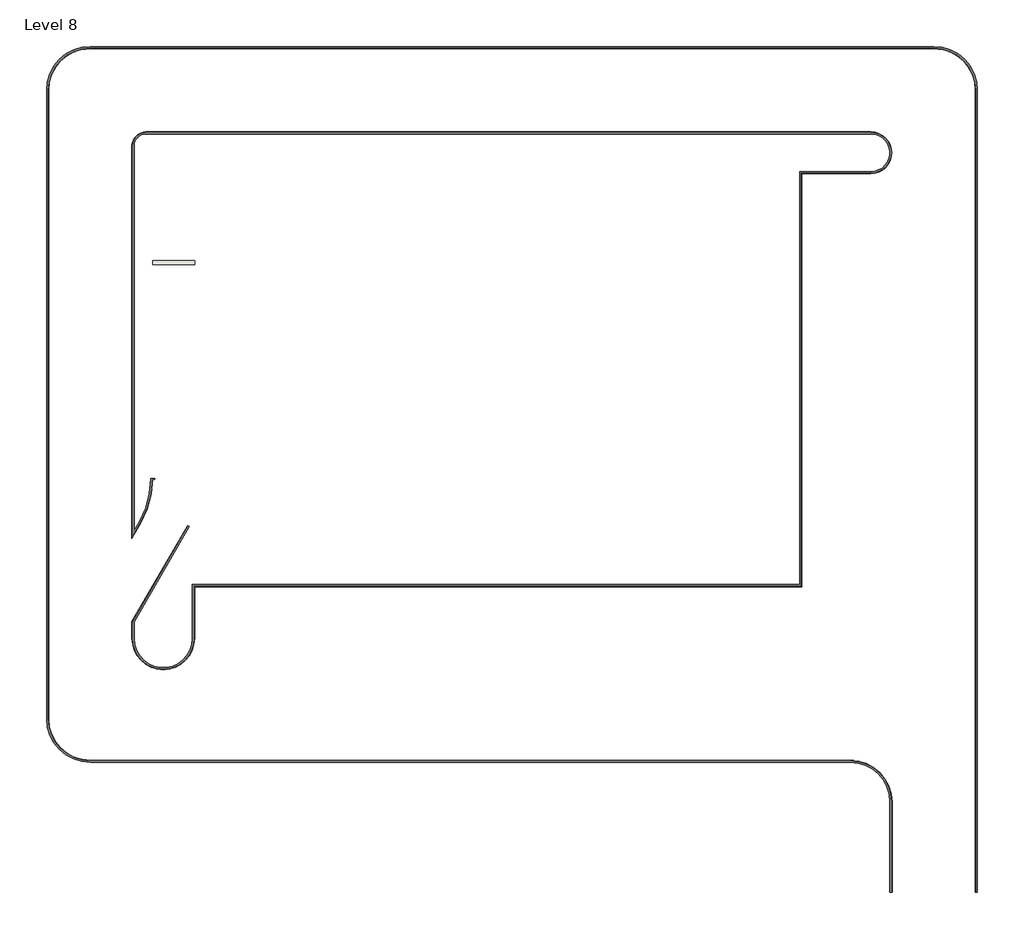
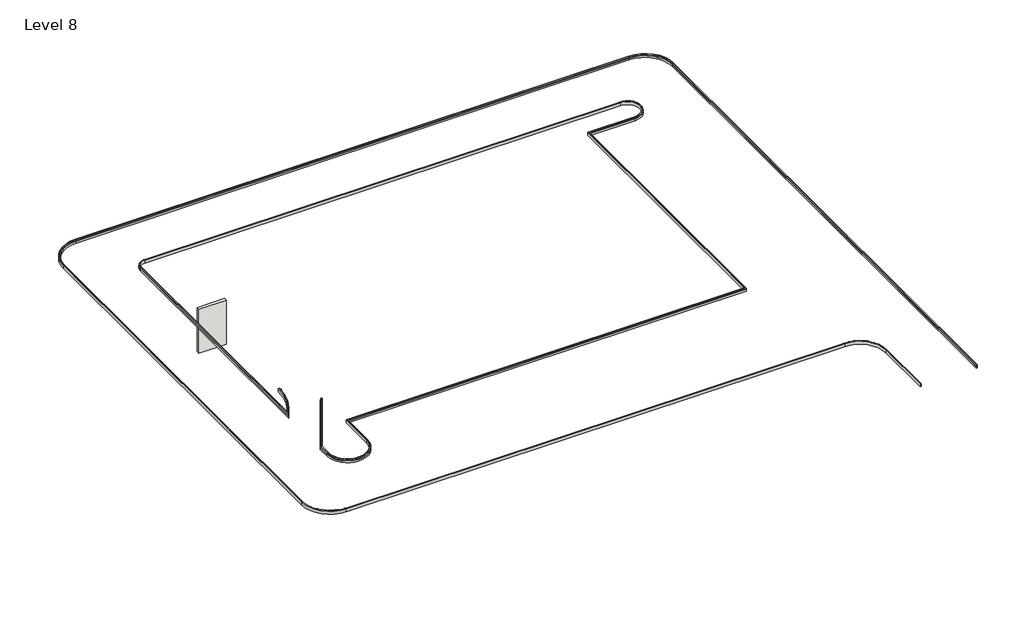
# One storey, incomplete: 1 proxy, 1 wall.
"""IFC4 building model written with IfcOpenShell, lengths in millimetres."""

from ifc_helpers import new_model, si_unit, point, frame, origin, place, context, project, spatial, polyline, circle_curve, ellipse_curve, trimmed, outline, extrude, element, save
from ifc_brep_helpers import plane_surface, cylinder_surface, revolved_surface, advanced_brep

model = new_model("IFC4")

# Units and contexts
model_context = context("Model", 3, world=origin())
ifc_project = project(units=[si_unit("LENGTHUNIT", "METRE", prefix="MILLI")], contexts=[model_context])

# Site, building, storey
site = spatial("IfcSite", under=ifc_project)
building = spatial("IfcBuilding", under=site)
storey = spatial("IfcBuildingStorey", under=building, Name="Level 8", Elevation=-1250.0)

# Proxy
placement = place(None, origin())
element("IfcBuildingElementProxy", 1, Name="Curb", ObjectType="Curb", at=placement, inside=storey, context=model_context, shape_type="AdvancedBrep", body=[
    advanced_brep(
    [(33302.6061884, -38406.9313057, -36.4135952), (33280.5272279, -38406.9313057, -150.0), (33280.5272279, -38406.9313057, -350.0), (33430.5272279, -38406.9313057, -350.0), (33430.5272279, -38406.9313057, 0.0), (33346.7794117, -38406.9313057, 0.0), (33302.6061884, 19343.0686943, -36.4135952), (33280.5272279, 19343.0686943, -150.0), (33430.5272279, 19343.0686943, -350.0), (33280.5272279, 19343.0686943, -350.0), (33430.5272279, 19343.0686943, 0.0), (33346.7794117, 19343.0686943, 0.0), (30280.5272279, 22343.0686943, -150.0), (30280.5272279, 22343.0686943, -350.0), (27280.5272279, -38406.9313057, -150.0), (27258.4482674, -38406.9313057, -36.4135952), (27214.2750442, -38406.9313057, 0.0), (27130.5272279, -38406.9313057, 0.0), (27130.5272279, -38406.9313057, -350.0), (27280.5272279, -38406.9313057, -350.0), (27280.5272279, -31906.9313057, -150.0), (27258.4482674, -31906.9313057, -36.4135952), (27130.5272279, -31906.9313057, -350.0), (27280.5272279, -31906.9313057, -350.0), (27130.5272279, -31906.9313057, 0.0), (27214.2750442, -31906.9313057, 0.0), (24280.5272279, -28906.9313057, -350.0), (24280.5272279, -28906.9313057, -150.0), (24280.5272279, -28929.0102661, -36.4135952), (24280.5272279, -29056.9313057, -350.0), (24280.5272279, -29056.9313057, 0.0), (24280.5272279, -28973.1834894, 0.0), (-30419.4727721, -28906.9313057, -350.0), (-30419.4727721, -28906.9313057, -150.0), (-30419.4727721, -28929.0102661, -36.4135952), (-30419.4727721, -29056.9313057, -350.0), (-30419.4727721, -29056.9313057, 0.0), (-30419.4727721, -28973.1834894, 0.0), (-33419.4727721, -25906.9313057, -350.0), (-33419.4727721, -25906.9313057, -150.0), (-33419.4727721, 19343.0686943, -150.0), (-33419.4727721, 19343.0686943, -350.0), (-30419.4727721, 22343.0686943, -350.0), (-30419.4727721, 22343.0686943, -150.0), (-33441.5517326, -25906.9313057, -36.4135952), (-33569.4727721, -25906.9313057, -350.0), (-33569.4727721, -25906.9313057, 0.0), (-33485.7249558, -25906.9313057, 0.0), (-33441.5517326, 19343.0686943, -36.4135952), (-33569.4727721, 19343.0686943, -350.0), (-33569.4727721, 19343.0686943, 0.0), (-33485.7249558, 19343.0686943, 0.0), (-30419.4727721, 22365.1476548, -36.4135952), (-30419.4727721, 22493.0686943, -350.0), (-30419.4727721, 22493.0686943, 0.0), (-30419.4727721, 22409.3208781, 0.0), (30280.5272279, 22365.1476548, -36.4135952), (30280.5272279, 22493.0686943, -350.0), (30280.5272279, 22493.0686943, 0.0), (30280.5272279, 22409.3208781, 0.0)],
    [
        (0, 1),
        (1, 2),
        (2, 3),
        (3, 4),
        (4, 5),
        (5, 0, circle_curve(frame((33346.7794117, -38406.9313057, -45.0), z_axis=(0.0, -1.0, 0.0), x_axis=(1.0, 0.0, 0.0)), 45.0)),
        (0, 6),
        (6, 7),
        (7, 1),
        (8, 3),
        (2, 9),
        (9, 8),
        (8, 10),
        (10, 4),
        (10, 11),
        (11, 5),
        (11, 6, circle_curve(frame((33346.7794117, 19343.0686943, -45.0), z_axis=(0.0, -1.0, 0.0), x_axis=(1.0, 0.0, 0.0)), 45.0)),
        (9, 7),
        (7, 12, circle_curve(frame((30280.5272279, 19343.0686943, -150.0), z_axis=(0.0, 0.0, 1.0), x_axis=(1.0, 0.0, 0.0)), 3000.0)),
        (12, 13),
        (13, 9, circle_curve(frame((30280.5272279, 19343.0686943, -350.0), z_axis=(0.0, 0.0, -1.0), x_axis=(1.0, 0.0, 0.0)), 3000.0)),
        (14, 15),
        (15, 16, circle_curve(frame((27214.2750442, -38406.9313057, -45.0), z_axis=(0.0, -1.0, 0.0), x_axis=(-1.0, 0.0, 0.0)), 45.0)),
        (16, 17),
        (17, 18),
        (18, 19),
        (19, 14),
        (20, 21),
        (21, 15),
        (14, 20),
        (18, 22),
        (22, 23),
        (23, 19),
        (24, 22),
        (17, 24),
        (25, 24),
        (16, 25),
        (21, 25, circle_curve(frame((27214.2750442, -31906.9313057, -45.0), z_axis=(0.0, -1.0, 0.0), x_axis=(-1.0, 0.0, 0.0)), 45.0)),
        (23, 20),
        (23, 26, circle_curve(frame((24280.5272279, -31906.9313057, -350.0), z_axis=(0.0, 0.0, 1.0), x_axis=(1.0, 0.0, 0.0)), 3000.0)),
        (26, 27),
        (27, 20, circle_curve(frame((24280.5272279, -31906.9313057, -150.0), z_axis=(0.0, 0.0, -1.0), x_axis=(1.0, 0.0, 0.0)), 3000.0)),
        (27, 28),
        (28, 21, circle_curve(frame((24280.5272279, -31906.9313057, -36.4135952), z_axis=(0.0, 0.0, -1.0), x_axis=(0.0, 1.0, 0.0)), 2977.9210395)),
        (22, 29, circle_curve(frame((24280.5272279, -31906.9313057, -350.0), z_axis=(0.0, 0.0, 1.0), x_axis=(0.0, 1.0, 0.0)), 2850.0)),
        (29, 26),
        (24, 30, circle_curve(frame((24280.5272279, -31906.9313057, 0.0), z_axis=(0.0, 0.0, 1.0), x_axis=(0.0, 1.0, 0.0)), 2850.0)),
        (30, 29),
        (25, 31, circle_curve(frame((24280.5272279, -31906.9313057, 0.0), z_axis=(0.0, 0.0, 1.0), x_axis=(0.0, 1.0, 0.0)), 2933.7478163)),
        (31, 30),
        (28, 31, circle_curve(frame((24280.5272279, -28973.1834894, -45.0), z_axis=(1.0, 0.0, 0.0), x_axis=(0.0, -1.0, 0.0)), 45.0)),
        (26, 32),
        (32, 33),
        (33, 27),
        (33, 34),
        (34, 28),
        (29, 35),
        (35, 32),
        (30, 36),
        (36, 35),
        (31, 37),
        (37, 36),
        (34, 37, circle_curve(frame((-30419.4727721, -28973.1834894, -45.0), z_axis=(1.0, 0.0, 0.0), x_axis=(0.0, -1.0, 0.0)), 45.0)),
        (32, 38, circle_curve(frame((-30419.4727721, -25906.9313057, -350.0), z_axis=(0.0, 0.0, -1.0), x_axis=(1.0, 0.0, 0.0)), 3000.0)),
        (38, 39),
        (39, 33, circle_curve(frame((-30419.4727721, -25906.9313057, -150.0), z_axis=(0.0, 0.0, 1.0), x_axis=(1.0, 0.0, 0.0)), 3000.0)),
        (40, 41),
        (41, 42, circle_curve(frame((-30419.4727721, 19343.0686943, -350.0), z_axis=(0.0, 0.0, -1.0), x_axis=(1.0, 0.0, 0.0)), 3000.0)),
        (42, 43),
        (43, 40, circle_curve(frame((-30419.4727721, 19343.0686943, -150.0), z_axis=(0.0, 0.0, 1.0), x_axis=(1.0, 0.0, 0.0)), 3000.0)),
        (39, 44),
        (44, 34, circle_curve(frame((-30419.4727721, -25906.9313057, -36.4135952), z_axis=(0.0, 0.0, 1.0), x_axis=(-1.0, 0.0, 0.0)), 3022.0789605)),
        (35, 45, circle_curve(frame((-30419.4727721, -25906.9313057, -350.0), z_axis=(0.0, 0.0, -1.0), x_axis=(-1.0, 0.0, 0.0)), 3150.0)),
        (45, 38),
        (36, 46, circle_curve(frame((-30419.4727721, -25906.9313057, 0.0), z_axis=(0.0, 0.0, -1.0), x_axis=(-1.0, 0.0, 0.0)), 3150.0)),
        (46, 45),
        (37, 47, circle_curve(frame((-30419.4727721, -25906.9313057, 0.0), z_axis=(0.0, 0.0, -1.0), x_axis=(-1.0, 0.0, 0.0)), 3066.2521837)),
        (47, 46),
        (44, 47, circle_curve(frame((-33485.7249558, -25906.9313057, -45.0), z_axis=(0.0, -1.0, 0.0), x_axis=(-1.0, 0.0, 0.0)), 45.0)),
        (38, 41),
        (40, 39),
        (40, 48),
        (48, 44),
        (45, 49),
        (49, 41),
        (46, 50),
        (50, 49),
        (47, 51),
        (51, 50),
        (48, 51, circle_curve(frame((-33485.7249558, 19343.0686943, -45.0), z_axis=(0.0, -1.0, 0.0), x_axis=(-1.0, 0.0, 0.0)), 45.0)),
        (43, 52),
        (52, 48, circle_curve(frame((-30419.4727721, 19343.0686943, -36.4135952), z_axis=(0.0, 0.0, 1.0), x_axis=(0.0, 1.0, 0.0)), 3022.0789605)),
        (49, 53, circle_curve(frame((-30419.4727721, 19343.0686943, -350.0), z_axis=(0.0, 0.0, -1.0), x_axis=(0.0, 1.0, 0.0)), 3150.0)),
        (53, 42),
        (50, 54, circle_curve(frame((-30419.4727721, 19343.0686943, 0.0), z_axis=(0.0, 0.0, -1.0), x_axis=(0.0, 1.0, 0.0)), 3150.0)),
        (54, 53),
        (51, 55, circle_curve(frame((-30419.4727721, 19343.0686943, 0.0), z_axis=(0.0, 0.0, -1.0), x_axis=(0.0, 1.0, 0.0)), 3066.2521837)),
        (55, 54),
        (52, 55, circle_curve(frame((-30419.4727721, 22409.3208781, -45.0), z_axis=(-1.0, 0.0, 0.0), x_axis=(0.0, 1.0, 0.0)), 45.0)),
        (42, 13),
        (12, 43),
        (12, 56),
        (56, 52),
        (53, 57),
        (57, 13),
        (54, 58),
        (58, 57),
        (55, 59),
        (59, 58),
        (56, 59, circle_curve(frame((30280.5272279, 22409.3208781, -45.0), z_axis=(-1.0, 0.0, 0.0), x_axis=(0.0, 1.0, 0.0)), 45.0)),
        (6, 56, circle_curve(frame((30280.5272279, 19343.0686943, -36.4135952), z_axis=(0.0, 0.0, 1.0), x_axis=(1.0, 0.0, 0.0)), 3022.0789605)),
        (57, 8, circle_curve(frame((30280.5272279, 19343.0686943, -350.0), z_axis=(0.0, 0.0, -1.0), x_axis=(1.0, 0.0, 0.0)), 3150.0)),
        (58, 10, circle_curve(frame((30280.5272279, 19343.0686943, 0.0), z_axis=(0.0, 0.0, -1.0), x_axis=(1.0, 0.0, 0.0)), 3150.0)),
        (59, 11, circle_curve(frame((30280.5272279, 19343.0686943, 0.0), z_axis=(0.0, 0.0, -1.0), x_axis=(1.0, 0.0, 0.0)), 3066.2521837)),
    ],
    [
        plane_surface(frame((33030.5272279, -38406.9313057, -150.0), z_axis=(0.0, -1.0, 0.0), x_axis=(0.0, 0.0, 1.0))),
        plane_surface(frame((33302.6061884, -38406.9313057, -36.4135952), z_axis=(-0.9816271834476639, 0.0, 0.1908089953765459), x_axis=(0.0, 1.0, 0.0))),
        plane_surface(frame((33130.5272279, -38406.9313057, -350.0), z_axis=(0.0, 0.0, -1.0), x_axis=(0.0, 1.0, 0.0))),
        plane_surface(frame((33430.5272279, -38406.9313057, -350.0), z_axis=(1.0, 0.0, 0.0), x_axis=(0.0, 1.0, 0.0))),
        plane_surface(frame((33430.5272279, -38406.9313057, 0.0), z_axis=(0.0, 0.0, 1.0), x_axis=(0.0, 1.0, 0.0))),
        cylinder_surface(frame((33346.7794117, -38406.9313057, -45.0), z_axis=(0.0, -1.0, 0.0), x_axis=(1.0, 0.0, 0.0)), 45.0),
        revolved_surface(polyline([(33280.5272279, 19343.0686943, -350.0), (33280.5272279, 19343.0686943, -150.0)]), (30280.5272279, 19343.0686943, -150.0), (0.0, 0.0, -1.0)),
        plane_surface(frame((33280.5272279, 19343.0686943, -2350.0), z_axis=(-1.0, 0.0, 0.0), x_axis=(0.0, 0.0, 1.0))),
        plane_surface(frame((27030.5272279, -38406.9313057, -150.0), z_axis=(0.0, -1.0, 0.0), x_axis=(0.0, 0.0, -1.0))),
        plane_surface(frame((27258.4482674, -31906.9313057, -36.4135952), z_axis=(0.9816271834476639, 0.0, 0.1908089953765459), x_axis=(0.0, -1.0, 0.0))),
        plane_surface(frame((27430.5272279, -31906.9313057, -350.0), z_axis=(0.0, 0.0, -1.0), x_axis=(0.0, -1.0, 0.0))),
        plane_surface(frame((27130.5272279, -31906.9313057, -350.0), z_axis=(-1.0, 0.0, 0.0), x_axis=(0.0, -1.0, 0.0))),
        plane_surface(frame((27130.5272279, -31906.9313057, 0.0), z_axis=(0.0, 0.0, 1.0), x_axis=(0.0, -1.0, 0.0))),
        cylinder_surface(frame((27214.2750442, -31906.9313057, -45.0), z_axis=(0.0, 1.0, 0.0), x_axis=(-1.0, 0.0, 0.0)), 45.0),
        plane_surface(frame((27280.5272279, -38406.9313057, -2350.0), z_axis=(1.0, 0.0, 0.0), x_axis=(0.0, 0.0, 1.0))),
        cylinder_surface(frame((24280.5272279, -31906.9313057, -150.0), z_axis=(0.0, 0.0, 1.0), x_axis=(1.0, 0.0, 0.0)), 3000.0),
        revolved_surface(polyline([(24280.5272279, -28929.0102661, -36.4135952), (24280.5272279, -28906.9313057, -150.0)]), (24280.5272279, -31906.9313057, -150.0), (0.0, 0.0, -1.0)),
        plane_surface(frame((24280.5272279, -31906.9313057, -350.0), z_axis=(0.0, 0.0, -1.0), x_axis=(0.0, 1.0, 0.0))),
        revolved_surface(polyline([(24280.5272279, -29056.9313057, -350.0), (24280.5272279, -29056.9313057, 0.0)]), (24280.5272279, -31906.9313057, -150.0), (0.0, 0.0, -1.0)),
        plane_surface(frame((24280.5272279, -31906.9313057, 0.0), z_axis=(0.0, 0.0, 1.0), x_axis=(0.0, 1.0, 0.0))),
        revolved_surface(trimmed(ellipse_curve(frame((24280.5272279, -28973.1834894, -45.0), z_axis=(-1.0, 0.0, 0.0), x_axis=(0.0, -1.0, 0.0)), 45.0, 45.0), [point((24280.5272279, -28973.1834894, 0.0))], [point((24280.5272279, -28929.0102661, -36.4135952))], True, "CARTESIAN"), (24280.5272279, -31906.9313057, -150.0), (0.0, 0.0, -1.0)),
        plane_surface(frame((24280.5272279, -28906.9313057, -2350.0), z_axis=(0.0, 1.0, 0.0), x_axis=(0.0, 0.0, 1.0))),
        plane_surface(frame((-30419.4727721, -28929.0102661, -36.4135952), z_axis=(0.0, 0.9816271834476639, 0.1908089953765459), x_axis=(1.0, 0.0, 0.0))),
        plane_surface(frame((-30419.4727721, -28756.9313057, -350.0), z_axis=(0.0, 0.0, -1.0), x_axis=(1.0, 0.0, 0.0))),
        plane_surface(frame((-30419.4727721, -29056.9313057, -350.0), z_axis=(0.0, -1.0, 0.0), x_axis=(1.0, 0.0, 0.0))),
        plane_surface(frame((-30419.4727721, -29056.9313057, 0.0), z_axis=(0.0, 0.0, 1.0), x_axis=(1.0, 0.0, 0.0))),
        cylinder_surface(frame((-30419.4727721, -28973.1834894, -45.0), z_axis=(-1.0, 0.0, 0.0), x_axis=(0.0, -1.0, 0.0)), 45.0),
        revolved_surface(polyline([(-27419.4727721, -25906.9313057, -350.0), (-27419.4727721, -25906.9313057, -150.0)]), (-30419.4727721, -25906.9313057, -150.0), (0.0, 0.0, -1.0)),
        revolved_surface(polyline([(-27419.4727721, 19343.0686943, -350.0), (-27419.4727721, 19343.0686943, -150.0)]), (-30419.4727721, 19343.0686943, -150.0), (0.0, 0.0, -1.0)),
        revolved_surface(polyline([(-33441.5517326, -25906.9313057, -36.4135952), (-33419.4727721, -25906.9313057, -150.0)]), (-30419.4727721, -25906.9313057, -150.0), (0.0, 0.0, 1.0)),
        plane_surface(frame((-30419.4727721, -25906.9313057, -350.0), z_axis=(0.0, 0.0, -1.0), x_axis=(-1.0, 0.0, 0.0))),
        cylinder_surface(frame((-30419.4727721, -25906.9313057, -150.0), z_axis=(0.0, 0.0, 1.0), x_axis=(-1.0, 0.0, 0.0)), 3150.0),
        plane_surface(frame((-30419.4727721, -25906.9313057, 0.0), z_axis=(0.0, 0.0, 1.0), x_axis=(-1.0, 0.0, 0.0))),
        revolved_surface(trimmed(ellipse_curve(frame((-33485.7249558, -25906.9313057, -45.0), z_axis=(0.0, 1.0, 0.0), x_axis=(-1.0, 0.0, 0.0)), 45.0, 45.0), [point((-33485.7249558, -25906.9313057, 0.0))], [point((-33441.5517326, -25906.9313057, -36.4135952))], True, "CARTESIAN"), (-30419.4727721, -25906.9313057, -150.0), (0.0, 0.0, 1.0)),
        plane_surface(frame((-33419.4727721, -25906.9313057, -2350.0), z_axis=(1.0, 0.0, 0.0), x_axis=(0.0, 0.0, 1.0))),
        plane_surface(frame((-33441.5517326, 19343.0686943, -36.4135952), z_axis=(0.9816271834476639, 0.0, 0.1908089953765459), x_axis=(0.0, -1.0, 0.0))),
        plane_surface(frame((-33269.4727721, 19343.0686943, -350.0), z_axis=(0.0, 0.0, -1.0), x_axis=(0.0, -1.0, 0.0))),
        plane_surface(frame((-33569.4727721, 19343.0686943, -350.0), z_axis=(-1.0, 0.0, 0.0), x_axis=(0.0, -1.0, 0.0))),
        plane_surface(frame((-33569.4727721, 19343.0686943, 0.0), z_axis=(0.0, 0.0, 1.0), x_axis=(0.0, -1.0, 0.0))),
        cylinder_surface(frame((-33485.7249558, 19343.0686943, -45.0), z_axis=(0.0, 1.0, 0.0), x_axis=(-1.0, 0.0, 0.0)), 45.0),
        revolved_surface(polyline([(-30419.4727721, 22365.1476548, -36.4135952), (-30419.4727721, 22343.0686943, -150.0)]), (-30419.4727721, 19343.0686943, -150.0), (0.0, 0.0, 1.0)),
        plane_surface(frame((-30419.4727721, 19343.0686943, -350.0), z_axis=(0.0, 0.0, -1.0), x_axis=(0.0, 1.0, 0.0))),
        cylinder_surface(frame((-30419.4727721, 19343.0686943, -150.0), z_axis=(0.0, 0.0, 1.0), x_axis=(0.0, 1.0, 0.0)), 3150.0),
        plane_surface(frame((-30419.4727721, 19343.0686943, 0.0), z_axis=(0.0, 0.0, 1.0), x_axis=(0.0, 1.0, 0.0))),
        revolved_surface(trimmed(ellipse_curve(frame((-30419.4727721, 22409.3208781, -45.0), z_axis=(1.0, 0.0, 0.0), x_axis=(0.0, 1.0, 0.0)), 45.0, 45.0), [point((-30419.4727721, 22409.3208781, 0.0))], [point((-30419.4727721, 22365.1476548, -36.4135952))], True, "CARTESIAN"), (-30419.4727721, 19343.0686943, -150.0), (0.0, 0.0, 1.0)),
        plane_surface(frame((-30419.4727721, 22343.0686943, -2350.0), z_axis=(0.0, -1.0, 0.0), x_axis=(0.0, 0.0, 1.0))),
        plane_surface(frame((30280.5272279, 22365.1476548, -36.4135952), z_axis=(0.0, -0.9816271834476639, 0.1908089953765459), x_axis=(-1.0, 0.0, 0.0))),
        plane_surface(frame((30280.5272279, 22193.0686943, -350.0), z_axis=(0.0, 0.0, -1.0), x_axis=(-1.0, 0.0, 0.0))),
        plane_surface(frame((30280.5272279, 22493.0686943, -350.0), z_axis=(0.0, 1.0, 0.0), x_axis=(-1.0, 0.0, 0.0))),
        plane_surface(frame((30280.5272279, 22493.0686943, 0.0), z_axis=(0.0, 0.0, 1.0), x_axis=(-1.0, 0.0, 0.0))),
        cylinder_surface(frame((30280.5272279, 22409.3208781, -45.0), z_axis=(1.0, 0.0, 0.0), x_axis=(0.0, 1.0, 0.0)), 45.0),
        revolved_surface(polyline([(33302.6061884, 19343.0686943, -36.4135952), (33280.5272279, 19343.0686943, -150.0)]), (30280.5272279, 19343.0686943, -150.0), (0.0, 0.0, 1.0)),
        plane_surface(frame((30280.5272279, 19343.0686943, -350.0), z_axis=(0.0, 0.0, -1.0), x_axis=(1.0, 0.0, 0.0))),
        cylinder_surface(frame((30280.5272279, 19343.0686943, -150.0), z_axis=(0.0, 0.0, 1.0), x_axis=(1.0, 0.0, 0.0)), 3150.0),
        plane_surface(frame((30280.5272279, 19343.0686943, 0.0), z_axis=(0.0, 0.0, 1.0), x_axis=(1.0, 0.0, 0.0))),
        revolved_surface(trimmed(ellipse_curve(frame((33346.7794117, 19343.0686943, -45.0), z_axis=(0.0, -1.0, 0.0), x_axis=(1.0, 0.0, 0.0)), 45.0, 45.0), [point((33346.7794117, 19343.0686943, 0.0))], [point((33302.6061884, 19343.0686943, -36.4135952))], True, "CARTESIAN"), (30280.5272279, 19343.0686943, -150.0), (0.0, 0.0, 1.0)),
    ],
    [
        (0, [[1, 2, 3, 4, 5, 6]]),
        (1, [[-1, 7, 8, 9]]),
        (2, [[10, -3, 11, 12]]),
        (3, [[-4, -10, 13, 14]]),
        (4, [[-5, -14, 15, 16]]),
        (5, [[-6, -16, 17, -7]]),
        (6, [[18, 19, 20, 21]]),
        (7, [[-18, -11, -2, -9]]),
        (8, [[22, 23, 24, 25, 26, 27]]),
        (9, [[28, 29, -22, 30]]),
        (10, [[31, 32, 33, -26]]),
        (11, [[34, -31, -25, 35]]),
        (12, [[36, -35, -24, 37]]),
        (13, [[38, -37, -23, -29]]),
        (14, [[39, -30, -27, -33]]),
        (15, [[-39, 40, 41, 42]]),
        (16, [[-28, -42, 43, 44]]),
        (17, [[45, 46, -40, -32]]),
        (18, [[-34, 47, 48, -45]]),
        (19, [[-36, 49, 50, -47]]),
        (20, [[-38, -44, 51, -49]]),
        (21, [[-41, 52, 53, 54]]),
        (22, [[-43, -54, 55, 56]]),
        (23, [[57, 58, -52, -46]]),
        (24, [[-48, 59, 60, -57]]),
        (25, [[-50, 61, 62, -59]]),
        (26, [[-51, -56, 63, -61]]),
        (27, [[-53, 64, 65, 66]]),
        (28, [[67, 68, 69, 70]]),
        (29, [[-55, -66, 71, 72]]),
        (30, [[73, 74, -64, -58]]),
        (31, [[-60, 75, 76, -73]]),
        (32, [[-62, 77, 78, -75]]),
        (33, [[-63, -72, 79, -77]]),
        (34, [[-65, 80, -67, 81]]),
        (35, [[-71, -81, 82, 83]]),
        (36, [[84, 85, -80, -74]]),
        (37, [[-76, 86, 87, -84]]),
        (38, [[-78, 88, 89, -86]]),
        (39, [[-79, -83, 90, -88]]),
        (40, [[-82, -70, 91, 92]]),
        (41, [[93, 94, -68, -85]]),
        (42, [[-87, 95, 96, -93]]),
        (43, [[-89, 97, 98, -95]]),
        (44, [[-90, -92, 99, -97]]),
        (45, [[-69, 100, -20, 101]]),
        (46, [[-91, -101, 102, 103]]),
        (47, [[104, 105, -100, -94]]),
        (48, [[-96, 106, 107, -104]]),
        (49, [[-98, 108, 109, -106]]),
        (50, [[-99, -103, 110, -108]]),
        (51, [[-102, -19, -8, 111]]),
        (52, [[112, -12, -21, -105]]),
        (53, [[-107, 113, -13, -112]]),
        (54, [[-109, 114, -15, -113]]),
        (55, [[-110, -111, -17, -114]]),
    ],
),
    advanced_brep(
    [(25767.0057917, 16343.0686943, -350.0), (25767.0057917, 16343.0686943, -150.0), (25767.0057917, 13343.0686943, -150.0), (25767.0057917, 13343.0686943, -350.0), (-26419.4727721, 16343.0686943, -350.0), (-26419.4727721, 16343.0686943, -150.0), (20780.5272279, 13343.0686943, -150.0), (20780.5272279, 13343.0686943, -350.0), (-27419.4727721, 15343.0686943, -350.0), (-27419.4727721, 15343.0686943, -150.0), (-27419.4727721, -20131.4306768, -350.0), (-27419.4727721, -20131.4306768, -150.0), (-27419.4727721, -18919.4602417, -150.0), (-27419.4727721, -18919.4602417, -350.0), (-22919.4727721, -20131.4306768, -350.0), (-22919.4727721, -20131.4306768, -150.0), (-22919.4727721, -16406.9313057, -350.0), (-22919.4727721, -16406.9313057, -150.0), (20780.5272279, -16406.9313057, -350.0), (20780.5272279, -16406.9313057, -150.0), (-27419.4727721, -12919.4602417, -350.0), (-27419.4727721, -12919.4602417, -150.0), (-26776.9101879, -11806.5091988, -350.0), (-26776.9101879, -11806.5091988, -150.0), (-25919.4727721, -8606.5091988, -350.0), (-25919.4727721, -8606.5091988, -150.0), (-23415.1787781, -11983.8195957, -150.0), (-23415.1787781, -11983.8195957, -350.0), (-26419.4727721, 16320.9897339, -36.4135952), (25767.0057917, 16320.9897339, -36.4135952), (25767.0057917, 16193.0686943, -350.0), (-26419.4727721, 16193.0686943, -350.0), (-26419.4727721, 16193.0686943, 0.0), (25767.0057917, 16193.0686943, 0.0), (-26419.4727721, 16276.8165106, 0.0), (25767.0057917, 16276.8165106, 0.0), (25767.0057917, 13365.1476548, -36.4135952), (25767.0057917, 13493.0686943, -350.0), (25767.0057917, 13493.0686943, 0.0), (25767.0057917, 13409.3208781, 0.0), (20758.4482674, 13365.1476548, -36.4135952), (20630.5272279, 13493.0686943, -350.0), (20630.5272279, 13493.0686943, 0.0), (20714.2750442, 13409.3208781, 0.0), (20758.4482674, -16384.8523452, -36.4135952), (20630.5272279, -16256.9313057, -350.0), (20630.5272279, -16256.9313057, 0.0), (20714.2750442, -16340.6791219, 0.0), (-22941.5517326, -16384.8523452, -36.4135952), (-23069.4727721, -16256.9313057, -350.0), (-23069.4727721, -16256.9313057, 0.0), (-22985.7249558, -16340.6791219, 0.0), (-22941.5517326, -20131.4306768, -36.4135952), (-23069.4727721, -20131.4306768, -350.0), (-23069.4727721, -20131.4306768, 0.0), (-22985.7249558, -20131.4306768, 0.0), (-27397.3938116, -20131.4306768, -36.4135952), (-27269.4727721, -20131.4306768, -350.0), (-27269.4727721, -20131.4306768, 0.0), (-27353.2205883, -20131.4306768, 0.0), (-27397.3938116, -18925.3762814, -36.4135952), (-27269.4727721, -18959.6526206, -350.0), (-27269.4727721, -18959.6526206, 0.0), (-27353.2205883, -18937.2124609, 0.0), (-23396.0578374, -11994.8590759, -36.4135952), (-23357.8027039, -12016.9456875, 0.0), (-23285.2749675, -12058.8195957, 0.0), (-23285.2749675, -12058.8195957, -350.0), (-26796.0311285, -11795.4697186, -36.4135952), (-27397.3938116, -12837.0604394, -36.4135952), (-27269.4727721, -12359.6526206, -350.0), (-26906.8139984, -11731.5091988, -350.0), (-26906.8139984, -11731.5091988, 0.0), (-27269.4727721, -12359.6526206, 0.0), (-26834.286262, -11773.3831069, 0.0), (-27353.2205883, -12672.2037259, 0.0), (-25941.5517326, -8606.5091988, -36.4135952), (-26069.4727721, -8606.5091988, -350.0), (-26069.4727721, -8606.5091988, 0.0), (-25985.7249558, -8606.5091988, 0.0), (-27397.3938116, 15343.0686943, -36.4135952), (-27269.4727721, 15343.0686943, -350.0), (-27269.4727721, 15343.0686943, 0.0), (-27353.2205883, 15343.0686943, 0.0)],
    [
        (0, 1),
        (1, 2, circle_curve(frame((25767.0057917, 14843.0686943, -150.0), z_axis=(0.0, 0.0, -1.0), x_axis=(1.0, 0.0, 0.0)), 1500.0)),
        (2, 3),
        (3, 0, circle_curve(frame((25767.0057917, 14843.0686943, -350.0), z_axis=(0.0, 0.0, 1.0), x_axis=(1.0, 0.0, 0.0)), 1500.0)),
        (0, 4),
        (4, 5),
        (5, 1),
        (2, 6),
        (6, 7),
        (7, 3),
        (8, 9),
        (9, 5, circle_curve(frame((-26419.4727721, 15343.0686943, -150.0), z_axis=(0.0, 0.0, -1.0), x_axis=(1.0, 0.0, 0.0)), 1000.0)),
        (4, 8, circle_curve(frame((-26419.4727721, 15343.0686943, -350.0), z_axis=(0.0, 0.0, 1.0), x_axis=(1.0, 0.0, 0.0)), 1000.0)),
        (10, 11),
        (11, 12),
        (12, 13),
        (13, 10),
        (14, 15),
        (15, 11, circle_curve(frame((-25169.4727721, -20131.4306768, -150.0), z_axis=(0.0, 0.0, -1.0), x_axis=(1.0, 0.0, 0.0)), 2250.0)),
        (10, 14, circle_curve(frame((-25169.4727721, -20131.4306768, -350.0), z_axis=(0.0, 0.0, 1.0), x_axis=(1.0, 0.0, 0.0)), 2250.0)),
        (16, 17),
        (17, 15),
        (14, 16),
        (18, 19),
        (19, 17),
        (16, 18),
        (6, 19),
        (18, 7),
        (20, 21),
        (21, 9),
        (8, 20),
        (20, 22),
        (22, 23),
        (23, 21),
        (22, 24, circle_curve(frame((-32319.4727721, -8606.5091988, -350.0), z_axis=(0.0, 0.0, 1.0), x_axis=(1.0, 0.0, 0.0)), 6400.0)),
        (24, 25),
        (25, 23, circle_curve(frame((-32319.4727721, -8606.5091988, -150.0), z_axis=(0.0, 0.0, -1.0), x_axis=(1.0, 0.0, 0.0)), 6400.0)),
        (12, 26),
        (26, 27),
        (27, 13),
        (5, 28),
        (28, 29),
        (29, 1),
        (30, 31),
        (31, 4),
        (0, 30),
        (32, 31),
        (30, 33),
        (33, 32),
        (34, 32),
        (33, 35),
        (35, 34),
        (28, 34, circle_curve(frame((-26419.4727721, 16276.8165106, -45.0), z_axis=(1.0, 0.0, 0.0), x_axis=(0.0, -1.0, 0.0)), 45.0)),
        (35, 29, circle_curve(frame((25767.0057917, 16276.8165106, -45.0), z_axis=(-1.0, 0.0, 0.0), x_axis=(0.0, -1.0, 0.0)), 45.0)),
        (29, 36, circle_curve(frame((25767.0057917, 14843.0686943, -36.4135952), z_axis=(0.0, 0.0, -1.0), x_axis=(0.0, 1.0, 0.0)), 1477.9210395)),
        (36, 2),
        (37, 30, circle_curve(frame((25767.0057917, 14843.0686943, -350.0), z_axis=(0.0, 0.0, 1.0), x_axis=(0.0, 1.0, 0.0)), 1350.0)),
        (3, 37),
        (37, 38),
        (38, 33, circle_curve(frame((25767.0057917, 14843.0686943, 0.0), z_axis=(0.0, 0.0, 1.0), x_axis=(0.0, 1.0, 0.0)), 1350.0)),
        (38, 39),
        (39, 35, circle_curve(frame((25767.0057917, 14843.0686943, 0.0), z_axis=(0.0, 0.0, 1.0), x_axis=(0.0, 1.0, 0.0)), 1433.7478163)),
        (39, 36, circle_curve(frame((25767.0057917, 13409.3208781, -45.0), z_axis=(1.0, 0.0, 0.0), x_axis=(0.0, 1.0, 0.0)), 45.0)),
        (36, 40),
        (40, 6),
        (41, 37),
        (7, 41),
        (41, 42),
        (42, 38),
        (42, 43),
        (43, 39),
        (43, 40, ellipse_curve(frame((20714.2750442, 13409.3208781, -45.0), z_axis=(0.7071067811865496, 0.7071067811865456, 0.0), x_axis=(0.7071067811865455, -0.7071067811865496, 0.0)), 63.6396103, 45.0)),
        (40, 44),
        (44, 19),
        (45, 41),
        (18, 45),
        (45, 46),
        (46, 42),
        (46, 47),
        (47, 43),
        (47, 44, ellipse_curve(frame((20714.2750442, -16340.6791219, -45.0), z_axis=(0.7071067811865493, 0.7071067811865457, 0.0), x_axis=(-0.7071067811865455, 0.7071067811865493, 0.0)), 63.6396103, 45.0)),
        (44, 48),
        (48, 17),
        (49, 45),
        (16, 49),
        (49, 50),
        (50, 46),
        (50, 51),
        (51, 47),
        (51, 48, ellipse_curve(frame((-22985.7249558, -16340.6791219, -45.0), z_axis=(0.7071067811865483, 0.7071067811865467, 0.0), x_axis=(0.7071067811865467, -0.7071067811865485, 0.0)), 63.6396103, 45.0)),
        (48, 52),
        (52, 15),
        (53, 49),
        (14, 53),
        (53, 54),
        (54, 50),
        (54, 55),
        (55, 51),
        (55, 52, circle_curve(frame((-22985.7249558, -20131.4306768, -45.0), z_axis=(0.0, 1.0, 0.0), x_axis=(-1.0, 0.0, 0.0)), 45.0)),
        (52, 56, circle_curve(frame((-25169.4727721, -20131.4306768, -36.4135952), z_axis=(0.0, 0.0, -1.0), x_axis=(1.0, 0.0, 0.0)), 2227.9210395)),
        (56, 11),
        (57, 53, circle_curve(frame((-25169.4727721, -20131.4306768, -350.0), z_axis=(0.0, 0.0, 1.0), x_axis=(1.0, 0.0, 0.0)), 2100.0)),
        (10, 57),
        (57, 58),
        (58, 54, circle_curve(frame((-25169.4727721, -20131.4306768, 0.0), z_axis=(0.0, 0.0, 1.0), x_axis=(1.0, 0.0, 0.0)), 2100.0)),
        (58, 59),
        (59, 55, circle_curve(frame((-25169.4727721, -20131.4306768, 0.0), z_axis=(0.0, 0.0, 1.0), x_axis=(1.0, 0.0, 0.0)), 2183.7478163)),
        (59, 56, circle_curve(frame((-27353.2205883, -20131.4306768, -45.0), z_axis=(0.0, -1.0, 0.0), x_axis=(1.0, 0.0, 0.0)), 45.0)),
        (56, 60),
        (60, 12),
        (61, 57),
        (13, 61),
        (61, 62),
        (62, 58),
        (62, 63),
        (63, 59),
        (63, 60, ellipse_curve(frame((-27353.2205883, -18937.2124609, -45.0), z_axis=(-0.2588190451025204, -0.9659258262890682, 0.0), x_axis=(0.9659258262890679, -0.25881904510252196, 0.0)), 46.5874281, 45.0)),
        (26, 64),
        (64, 65, circle_curve(frame((-23357.8027039, -12016.9456875, -45.0), z_axis=(0.5000000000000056, 0.8660254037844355, 0.0), x_axis=(0.8660254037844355, -0.5000000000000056, 0.0)), 45.0)),
        (65, 66),
        (66, 67),
        (67, 27),
        (60, 64),
        (67, 61),
        (66, 62),
        (65, 63),
        (23, 68),
        (68, 69),
        (69, 21),
        (70, 71),
        (71, 22),
        (20, 70),
        (72, 71),
        (70, 73),
        (73, 72),
        (74, 72),
        (73, 75),
        (75, 74),
        (68, 74, circle_curve(frame((-26834.286262, -11773.3831069, -45.0), z_axis=(-0.5000000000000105, -0.8660254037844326, 0.0), x_axis=(-0.8660254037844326, 0.5000000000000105, 0.0)), 45.0)),
        (75, 69, ellipse_curve(frame((-27353.2205883, -12672.2037259, -45.0), z_axis=(0.9659258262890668, -0.2588190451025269, 0.0), x_axis=(0.2588190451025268, 0.9659258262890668, 0.0)), 173.8666487, 45.0)),
        (76, 25),
        (24, 77),
        (77, 78),
        (78, 79),
        (79, 76, circle_curve(frame((-25985.7249558, -8606.5091988, -45.0), z_axis=(0.0, 1.0, 0.0), x_axis=(-1.0, 0.0, 0.0)), 45.0)),
        (76, 68, circle_curve(frame((-32319.4727721, -8606.5091988, -36.4135952), z_axis=(0.0, 0.0, -1.0), x_axis=(1.0, 0.0, 0.0)), 6377.9210395)),
        (71, 77, circle_curve(frame((-32319.4727721, -8606.5091988, -350.0), z_axis=(0.0, 0.0, 1.0), x_axis=(1.0, 0.0, 0.0)), 6250.0)),
        (72, 78, circle_curve(frame((-32319.4727721, -8606.5091988, 0.0), z_axis=(0.0, 0.0, 1.0), x_axis=(1.0, 0.0, 0.0)), 6250.0)),
        (74, 79, circle_curve(frame((-32319.4727721, -8606.5091988, 0.0), z_axis=(0.0, 0.0, 1.0), x_axis=(1.0, 0.0, 0.0)), 6333.7478163)),
        (69, 80),
        (80, 9),
        (81, 70),
        (8, 81),
        (81, 82),
        (82, 73),
        (82, 83),
        (83, 75),
        (83, 80, circle_curve(frame((-27353.2205883, 15343.0686943, -45.0), z_axis=(0.0, -1.0, 0.0), x_axis=(1.0, 0.0, 0.0)), 45.0)),
        (80, 28, circle_curve(frame((-26419.4727721, 15343.0686943, -36.4135952), z_axis=(0.0, 0.0, -1.0), x_axis=(-1.0, 0.0, 0.0)), 977.9210395)),
        (31, 81, circle_curve(frame((-26419.4727721, 15343.0686943, -350.0), z_axis=(0.0, 0.0, 1.0), x_axis=(-1.0, 0.0, 0.0)), 850.0)),
        (32, 82, circle_curve(frame((-26419.4727721, 15343.0686943, 0.0), z_axis=(0.0, 0.0, 1.0), x_axis=(-1.0, 0.0, 0.0)), 850.0)),
        (34, 83, circle_curve(frame((-26419.4727721, 15343.0686943, 0.0), z_axis=(0.0, 0.0, 1.0), x_axis=(-1.0, 0.0, 0.0)), 933.7478163)),
    ],
    [
        cylinder_surface(frame((25767.0057917, 14843.0686943, 0.0), z_axis=(0.0, 0.0, 1.0), x_axis=(1.0, 0.0, 0.0)), 1500.0),
        plane_surface(frame((25767.0057917, 16343.0686943, -2350.0), z_axis=(0.0, 1.0, 0.0), x_axis=(0.0, 0.0, 1.0))),
        plane_surface(frame((20780.5272279, 13343.0686943, -2350.0), z_axis=(0.0, -1.0, 0.0), x_axis=(0.0, 0.0, 1.0))),
        cylinder_surface(frame((-26419.4727721, 15343.0686943, 0.0), z_axis=(0.0, 0.0, 1.0), x_axis=(1.0, 0.0, 0.0)), 1000.0),
        plane_surface(frame((-27419.4727721, -18919.4602417, -2350.0), z_axis=(-1.0, 0.0, 0.0), x_axis=(0.0, 0.0, 1.0))),
        cylinder_surface(frame((-25169.4727721, -20131.4306768, 0.0), z_axis=(0.0, 0.0, 1.0), x_axis=(1.0, 0.0, 0.0)), 2250.0),
        plane_surface(frame((-22919.4727721, -20131.4306768, -2350.0), z_axis=(1.0, 0.0, 0.0), x_axis=(0.0, 0.0, 1.0))),
        plane_surface(frame((-22919.4727721, -16406.9313057, -2350.0), z_axis=(0.0, -1.0, 0.0), x_axis=(0.0, 0.0, 1.0))),
        plane_surface(frame((20780.5272279, -16406.9313057, -2350.0), z_axis=(1.0, 0.0, 0.0), x_axis=(0.0, 0.0, 1.0))),
        plane_surface(frame((-27419.4727721, 15343.0686943, -2350.0), z_axis=(-1.0, 0.0, 0.0), x_axis=(0.0, 0.0, 1.0))),
        plane_surface(frame((-27419.4727721, -12919.4602417, -2350.0), z_axis=(0.8660254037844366, -0.5000000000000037, 0.0), x_axis=(0.0, 0.0, 1.0))),
        cylinder_surface(frame((-32319.4727721, -8606.5091988, 0.0), z_axis=(0.0, 0.0, 1.0), x_axis=(1.0, 0.0, 0.0)), 6400.0),
        plane_surface(frame((-23415.1787781, -11983.8195957, -2350.0), z_axis=(-0.8660254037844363, 0.5000000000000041, 0.0), x_axis=(0.0, 0.0, 1.0))),
        plane_surface(frame((-26419.4727721, 16320.9897339, -36.4135952), z_axis=(0.0, 0.9816271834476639, 0.19080899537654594), x_axis=(1.0, 0.0, 0.0))),
        plane_surface(frame((-26419.4727721, 16493.0686943, -350.0), z_axis=(0.0, 0.0, -1.0), x_axis=(1.0, 0.0, 0.0))),
        plane_surface(frame((-26419.4727721, 16193.0686943, -350.0), z_axis=(0.0, -1.0, 0.0), x_axis=(1.0, 0.0, 0.0))),
        plane_surface(frame((-26419.4727721, 16193.0686943, 0.0), z_axis=(0.0, 0.0, 1.0), x_axis=(1.0, 0.0, 0.0))),
        cylinder_surface(frame((-26419.4727721, 16276.8165106, -45.0), z_axis=(-1.0, 0.0, 0.0), x_axis=(0.0, -1.0, 0.0)), 45.0),
        revolved_surface(polyline([(25767.0057917, 16320.9897339, -36.4135952), (25767.0057917, 16343.0686943, -150.0)]), (25767.0057917, 14843.0686943, -150.0), (0.0, 0.0, -1.0)),
        plane_surface(frame((25767.0057917, 14843.0686943, -350.0), z_axis=(0.0, 0.0, -1.0), x_axis=(0.0, 1.0, 0.0))),
        revolved_surface(polyline([(25767.0057917, 16193.0686943, -350.0), (25767.0057917, 16193.0686943, 0.0)]), (25767.0057917, 14843.0686943, -150.0), (0.0, 0.0, -1.0)),
        plane_surface(frame((25767.0057917, 14843.0686943, 0.0), z_axis=(0.0, 0.0, 1.0), x_axis=(0.0, 1.0, 0.0))),
        revolved_surface(trimmed(ellipse_curve(frame((25767.0057917, 16276.8165106, -45.0), z_axis=(-1.0, 0.0, 0.0), x_axis=(0.0, -1.0, 0.0)), 45.0, 45.0), [point((25767.0057917, 16276.8165106, 0.0))], [point((25767.0057917, 16320.9897339, -36.4135952))], True, "CARTESIAN"), (25767.0057917, 14843.0686943, -150.0), (0.0, 0.0, -1.0)),
        plane_surface(frame((25767.0057917, 13365.1476548, -36.4135952), z_axis=(0.0, -0.9816271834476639, 0.19080899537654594), x_axis=(-1.0, 0.0, 0.0))),
        plane_surface(frame((25767.0057917, 13193.0686943, -350.0), z_axis=(0.0, 0.0, -1.0), x_axis=(-1.0, 0.0, 0.0))),
        plane_surface(frame((25767.0057917, 13493.0686943, -350.0), z_axis=(0.0, 1.0, 0.0), x_axis=(-1.0, 0.0, 0.0))),
        plane_surface(frame((25767.0057917, 13493.0686943, 0.0), z_axis=(0.0, 0.0, 1.0), x_axis=(-1.0, 0.0, 0.0))),
        cylinder_surface(frame((25767.0057917, 13409.3208781, -45.0), z_axis=(1.0, 0.0, 0.0), x_axis=(0.0, 1.0, 0.0)), 45.0),
        plane_surface(frame((20758.4482674, 13365.1476548, -36.4135952), z_axis=(0.9816271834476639, 0.0, 0.19080899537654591), x_axis=(0.0, -1.0, 0.0))),
        plane_surface(frame((20930.5272279, 13193.0686943, -350.0), z_axis=(0.0, 0.0, -1.0), x_axis=(0.0, -1.0, 0.0))),
        plane_surface(frame((20630.5272279, 13493.0686943, -350.0), z_axis=(-1.0, 0.0, 0.0), x_axis=(0.0, -1.0, 0.0))),
        plane_surface(frame((20630.5272279, 13493.0686943, 0.0), z_axis=(0.0, 0.0, 1.0), x_axis=(0.0, -1.0, 0.0))),
        cylinder_surface(frame((20714.2750442, 13343.0686943, -45.0), z_axis=(0.0, 1.0, 0.0), x_axis=(-1.0, 0.0, 0.0)), 45.0),
        plane_surface(frame((20758.4482674, -16384.8523452, -36.4135952), z_axis=(0.0, -0.9816271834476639, 0.1908089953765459), x_axis=(-1.0, 0.0, 0.0))),
        plane_surface(frame((20930.5272279, -16556.9313057, -350.0), z_axis=(0.0, 0.0, -1.0), x_axis=(-1.0, 0.0, 0.0))),
        plane_surface(frame((20630.5272279, -16256.9313057, -350.0), z_axis=(0.0, 1.0, 0.0), x_axis=(-1.0, 0.0, 0.0))),
        plane_surface(frame((20630.5272279, -16256.9313057, 0.0), z_axis=(0.0, 0.0, 1.0), x_axis=(-1.0, 0.0, 0.0))),
        cylinder_surface(frame((20780.5272279, -16340.6791219, -45.0), z_axis=(1.0, 0.0, 0.0), x_axis=(0.0, 1.0, 0.0)), 45.0),
        plane_surface(frame((-22941.5517326, -16384.8523452, -36.4135952), z_axis=(0.9816271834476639, 0.0, 0.1908089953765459), x_axis=(0.0, -1.0, 0.0))),
        plane_surface(frame((-22769.4727721, -16556.9313057, -350.0), z_axis=(0.0, 0.0, -1.0), x_axis=(0.0, -1.0, 0.0))),
        plane_surface(frame((-23069.4727721, -16256.9313057, -350.0), z_axis=(-1.0, 0.0, 0.0), x_axis=(0.0, -1.0, 0.0))),
        plane_surface(frame((-23069.4727721, -16256.9313057, 0.0), z_axis=(0.0, 0.0, 1.0), x_axis=(0.0, -1.0, 0.0))),
        cylinder_surface(frame((-22985.7249558, -16406.9313057, -45.0), z_axis=(0.0, 1.0, 0.0), x_axis=(-1.0, 0.0, 0.0)), 45.0),
        revolved_surface(polyline([(-22941.5517326, -20131.4306768, -36.4135952), (-22919.4727721, -20131.4306768, -150.0)]), (-25169.4727721, -20131.4306768, -150.0), (0.0, 0.0, -1.0)),
        plane_surface(frame((-25169.4727721, -20131.4306768, -350.0), z_axis=(0.0, 0.0, -1.0), x_axis=(1.0, 0.0, 0.0))),
        revolved_surface(polyline([(-23069.4727721, -20131.4306768, -350.0), (-23069.4727721, -20131.4306768, 0.0)]), (-25169.4727721, -20131.4306768, -150.0), (0.0, 0.0, -1.0)),
        plane_surface(frame((-25169.4727721, -20131.4306768, 0.0), z_axis=(0.0, 0.0, 1.0), x_axis=(1.0, 0.0, 0.0))),
        revolved_surface(trimmed(ellipse_curve(frame((-22985.7249558, -20131.4306768, -45.0), z_axis=(0.0, 1.0, 0.0), x_axis=(-1.0, 0.0, 0.0)), 45.0, 45.0), [point((-22985.7249558, -20131.4306768, 0.0))], [point((-22941.5517326, -20131.4306768, -36.4135952))], True, "CARTESIAN"), (-25169.4727721, -20131.4306768, -150.0), (0.0, 0.0, -1.0)),
        plane_surface(frame((-27397.3938116, -20131.4306768, -36.4135952), z_axis=(-0.9816271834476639, 0.0, 0.1908089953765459), x_axis=(0.0, 1.0, 0.0))),
        plane_surface(frame((-27569.4727721, -20131.4306768, -350.0), z_axis=(0.0, 0.0, -1.0), x_axis=(0.0, 1.0, 0.0))),
        plane_surface(frame((-27269.4727721, -20131.4306768, -350.0), z_axis=(1.0, 0.0, 0.0), x_axis=(0.0, 1.0, 0.0))),
        plane_surface(frame((-27269.4727721, -20131.4306768, 0.0), z_axis=(0.0, 0.0, 1.0), x_axis=(0.0, 1.0, 0.0))),
        cylinder_surface(frame((-27353.2205883, -20131.4306768, -45.0), z_axis=(0.0, -1.0, 0.0), x_axis=(1.0, 0.0, 0.0)), 45.0),
        plane_surface(frame((-23415.1787781, -11983.8195957, 100.0), z_axis=(0.5000000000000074, 0.8660254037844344, 0.0), x_axis=(0.8660254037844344, -0.5000000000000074, 0.0))),
        plane_surface(frame((-27397.3938116, -18925.3762814, -36.4135952), z_axis=(-0.8501140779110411, 0.4908135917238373, 0.19080899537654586), x_axis=(0.5000000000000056, 0.8660254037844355, 0.0))),
        plane_surface(frame((-27569.4727721, -18879.2678629, -350.0), z_axis=(0.0, 0.0, -1.0), x_axis=(0.5000000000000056, 0.8660254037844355, 0.0))),
        plane_surface(frame((-27269.4727721, -18959.6526206, -350.0), z_axis=(0.8660254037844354, -0.5000000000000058, 0.0), x_axis=(0.5000000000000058, 0.8660254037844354, 0.0))),
        plane_surface(frame((-27269.4727721, -18959.6526206, 0.0), z_axis=(0.0, 0.0, 1.0), x_axis=(0.5000000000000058, 0.8660254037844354, 0.0))),
        cylinder_surface(frame((-27362.0966979, -18952.5863336, -45.0), z_axis=(-0.5000000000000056, -0.8660254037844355, 0.0), x_axis=(0.8660254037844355, -0.5000000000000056, 0.0)), 45.0),
        plane_surface(frame((-26796.0311285, -11795.4697186, -36.4135952), z_axis=(0.8501140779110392, -0.4908135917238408, 0.19080899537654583), x_axis=(-0.5000000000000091, -0.8660254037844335, 0.0))),
        plane_surface(frame((-26647.0063773, -11881.5091988, -350.0), z_axis=(0.0, 0.0, -1.0), x_axis=(-0.50000000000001, -0.8660254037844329, 0.0))),
        plane_surface(frame((-26906.8139984, -11731.5091988, -350.0), z_axis=(-0.8660254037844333, 0.5000000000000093, 0.0), x_axis=(-0.5000000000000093, -0.8660254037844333, 0.0))),
        plane_surface(frame((-26906.8139984, -11731.5091988, 0.0), z_axis=(0.0, 0.0, 1.0), x_axis=(-0.5000000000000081, -0.866025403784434, 0.0))),
        cylinder_surface(frame((-26834.286262, -11773.3831069, -45.0), z_axis=(0.5000000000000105, 0.8660254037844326, 0.0), x_axis=(-0.8660254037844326, 0.5000000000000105, 0.0)), 45.0),
        plane_surface(frame((-32319.4727721, -8606.5091988, -150.0), z_axis=(0.0, 1.0, 0.0), x_axis=(1.0, 0.0, 0.0))),
        revolved_surface(polyline([(-25941.5517326, -8606.5091988, -36.4135952), (-25919.4727721, -8606.5091988, -150.0)]), (-32319.4727721, -8606.5091988, -150.0), (0.0, 0.0, -1.0)),
        plane_surface(frame((-32319.4727721, -8606.5091988, -350.0), z_axis=(0.0, 0.0, -1.0), x_axis=(1.0, 0.0, 0.0))),
        revolved_surface(polyline([(-26069.4727721, -8606.5091988, -350.0), (-26069.4727721, -8606.5091988, 0.0)]), (-32319.4727721, -8606.5091988, -150.0), (0.0, 0.0, -1.0)),
        plane_surface(frame((-32319.4727721, -8606.5091988, 0.0), z_axis=(0.0, 0.0, 1.0), x_axis=(1.0, 0.0, 0.0))),
        revolved_surface(trimmed(ellipse_curve(frame((-25985.7249558, -8606.5091988, -45.0), z_axis=(0.0, 1.0, 0.0), x_axis=(-1.0, 0.0, 0.0)), 45.0, 45.0), [point((-25985.7249558, -8606.5091988, 0.0))], [point((-25941.5517326, -8606.5091988, -36.4135952))], True, "CARTESIAN"), (-32319.4727721, -8606.5091988, -150.0), (0.0, 0.0, -1.0)),
        plane_surface(frame((-27397.3938116, -12837.0604394, -36.4135952), z_axis=(-0.9816271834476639, 0.0, 0.19080899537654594), x_axis=(0.0, 1.0, 0.0))),
        plane_surface(frame((-27569.4727721, -13479.2678629, -350.0), z_axis=(0.0, 0.0, -1.0), x_axis=(0.0, 1.0, 0.0))),
        plane_surface(frame((-27269.4727721, -12359.6526206, -350.0), z_axis=(1.0, 0.0, 0.0), x_axis=(0.0, 1.0, 0.0))),
        plane_surface(frame((-27269.4727721, -12359.6526206, 0.0), z_axis=(0.0, 0.0, 1.0), x_axis=(0.0, 1.0, 0.0))),
        cylinder_surface(frame((-27353.2205883, -12919.4602417, -45.0), z_axis=(0.0, -1.0, 0.0), x_axis=(1.0, 0.0, 0.0)), 45.0),
        revolved_surface(polyline([(-27397.3938116, 15343.0686943, -36.4135952), (-27419.4727721, 15343.0686943, -150.0)]), (-26419.4727721, 15343.0686943, -150.0), (0.0, 0.0, -1.0)),
        plane_surface(frame((-26419.4727721, 15343.0686943, -350.0), z_axis=(0.0, 0.0, -1.0), x_axis=(-1.0, 0.0, 0.0))),
        revolved_surface(polyline([(-27269.4727721, 15343.0686943, -350.0), (-27269.4727721, 15343.0686943, 0.0)]), (-26419.4727721, 15343.0686943, -150.0), (0.0, 0.0, -1.0)),
        plane_surface(frame((-26419.4727721, 15343.0686943, 0.0), z_axis=(0.0, 0.0, 1.0), x_axis=(-1.0, 0.0, 0.0))),
        revolved_surface(trimmed(ellipse_curve(frame((-27353.2205883, 15343.0686943, -45.0), z_axis=(0.0, -1.0, 0.0), x_axis=(1.0, 0.0, 0.0)), 45.0, 45.0), [point((-27353.2205883, 15343.0686943, 0.0))], [point((-27397.3938116, 15343.0686943, -36.4135952))], True, "CARTESIAN"), (-26419.4727721, 15343.0686943, -150.0), (0.0, 0.0, -1.0)),
    ],
    [
        (0, [[1, 2, 3, 4]]),
        (1, [[-1, 5, 6, 7]]),
        (2, [[-3, 8, 9, 10]]),
        (3, [[11, 12, -6, 13]]),
        (4, [[14, 15, 16, 17]]),
        (5, [[18, 19, -14, 20]]),
        (6, [[21, 22, -18, 23]]),
        (7, [[24, 25, -21, 26]]),
        (8, [[-9, 27, -24, 28]]),
        (9, [[29, 30, -11, 31]]),
        (10, [[-29, 32, 33, 34]]),
        (11, [[-33, 35, 36, 37]]),
        (12, [[-16, 38, 39, 40]]),
        (13, [[41, 42, 43, -7]]),
        (14, [[44, 45, -5, 46]]),
        (15, [[47, -44, 48, 49]]),
        (16, [[50, -49, 51, 52]]),
        (17, [[53, -52, 54, -42]]),
        (18, [[-43, 55, 56, -2]]),
        (19, [[57, -46, -4, 58]]),
        (20, [[-48, -57, 59, 60]]),
        (21, [[-51, -60, 61, 62]]),
        (22, [[-54, -62, 63, -55]]),
        (23, [[-56, 64, 65, -8]]),
        (24, [[66, -58, -10, 67]]),
        (25, [[-59, -66, 68, 69]]),
        (26, [[-61, -69, 70, 71]]),
        (27, [[-63, -71, 72, -64]]),
        (28, [[-65, 73, 74, -27]]),
        (29, [[75, -67, -28, 76]]),
        (30, [[-68, -75, 77, 78]]),
        (31, [[-70, -78, 79, 80]]),
        (32, [[-72, -80, 81, -73]]),
        (33, [[-74, 82, 83, -25]]),
        (34, [[84, -76, -26, 85]]),
        (35, [[-77, -84, 86, 87]]),
        (36, [[-79, -87, 88, 89]]),
        (37, [[-81, -89, 90, -82]]),
        (38, [[-83, 91, 92, -22]]),
        (39, [[93, -85, -23, 94]]),
        (40, [[-86, -93, 95, 96]]),
        (41, [[-88, -96, 97, 98]]),
        (42, [[-90, -98, 99, -91]]),
        (43, [[-92, 100, 101, -19]]),
        (44, [[102, -94, -20, 103]]),
        (45, [[-95, -102, 104, 105]]),
        (46, [[-97, -105, 106, 107]]),
        (47, [[-99, -107, 108, -100]]),
        (48, [[-101, 109, 110, -15]]),
        (49, [[111, -103, -17, 112]]),
        (50, [[-104, -111, 113, 114]]),
        (51, [[-106, -114, 115, 116]]),
        (52, [[-108, -116, 117, -109]]),
        (53, [[118, 119, 120, 121, 122, -39]]),
        (54, [[-110, 123, -118, -38]]),
        (55, [[124, -112, -40, -122]]),
        (56, [[-113, -124, -121, 125]]),
        (57, [[-115, -125, -120, 126]]),
        (58, [[-117, -126, -119, -123]]),
        (59, [[127, 128, 129, -34]]),
        (60, [[130, 131, -32, 132]]),
        (61, [[133, -130, 134, 135]]),
        (62, [[136, -135, 137, 138]]),
        (63, [[139, -138, 140, -128]]),
        (64, [[141, -36, 142, 143, 144, 145]]),
        (65, [[-127, -37, -141, 146]]),
        (66, [[147, -142, -35, -131]]),
        (67, [[-133, 148, -143, -147]]),
        (68, [[-136, 149, -144, -148]]),
        (69, [[-139, -146, -145, -149]]),
        (70, [[-129, 150, 151, -30]]),
        (71, [[152, -132, -31, 153]]),
        (72, [[-134, -152, 154, 155]]),
        (73, [[-137, -155, 156, 157]]),
        (74, [[-140, -157, 158, -150]]),
        (75, [[-41, -12, -151, 159]]),
        (76, [[160, -153, -13, -45]]),
        (77, [[-47, 161, -154, -160]]),
        (78, [[-50, 162, -156, -161]]),
        (79, [[-53, -159, -158, -162]]),
    ],
),
    advanced_brep(
    [(-25919.4727721, -8606.5091988, -150.0), (-25769.4727721, -8606.5091988, -155.0359438), (-25769.9153314, -8682.6494101, -150.0), (-25769.4727721, -8606.5091988, -150.0)],
    [
        (0, 1),
        (1, 2, ellipse_curve(frame((-32319.4727721, -8606.5091988, 64.8669356), z_axis=(-0.03348141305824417, -0.065765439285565, -0.9972732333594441), x_axis=(0.4524548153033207, 0.8887286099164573, -0.07379768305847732)), 6567.9091556, 6550.0)),
        (2, 0),
        (0, 3),
        (3, 1),
        (2, 3, circle_curve(frame((-32319.4727721, -8606.5091988, -150.0), z_axis=(0.0, 0.0, 1.0), x_axis=(1.0, 0.0, 0.0)), 6550.0)),
    ],
    [
        plane_surface(frame((-23919.4727721, -4822.7533667, -466.6666667), z_axis=(-0.03348141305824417, -0.065765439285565, -0.9972732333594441), x_axis=(0.0, 0.9978326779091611, -0.06580233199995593))),
        plane_surface(frame((-32319.4727721, -8606.5091988, -150.0), z_axis=(0.0, 1.0, 0.0), x_axis=(1.0, 0.0, 0.0))),
        plane_surface(frame((-32319.4727721, -8606.5091988, -150.0), z_axis=(0.0, 0.0, 1.0), x_axis=(1.0, 0.0, 0.0))),
        cylinder_surface(frame((-32319.4727721, -8606.5091988, -150.0), z_axis=(0.0, 0.0, -1.0), x_axis=(1.0, 0.0, 0.0)), 6550.0),
    ],
    [
        (0, [[1, 2, 3]]),
        (1, [[4, 5, -1]]),
        (2, [[-4, -3, 6]]),
        (3, [[-5, -6, -2]]),
    ],
),
])

# Wall
element("IfcWall", 2, ObjectType="Foundation - 300mm Concrete", at=placement, inside=storey, context=model_context, shape_type="SweptSolid", body=[
    extrude(outline(polyline([(-25919.4727721, 7072.0686943), (-22919.4727721, 7072.0686943), (-22919.4727721, 6772.0686943), (-25919.4727721, 6772.0686943), (-25919.4727721, 7072.0686943)])), frame((0.0, 0.0, -5250.0), z_axis=(0.0, 0.0, 1.0), x_axis=(1.0, 0.0, 0.0)), (0.0, 0.0, 1.0), 5100.0),
])

save(model, "model.ifc")
